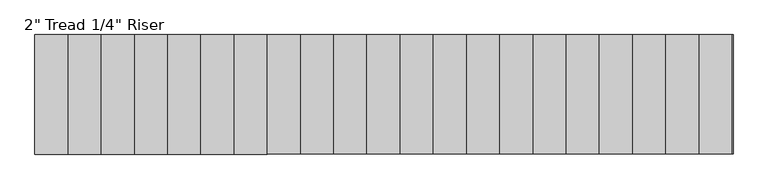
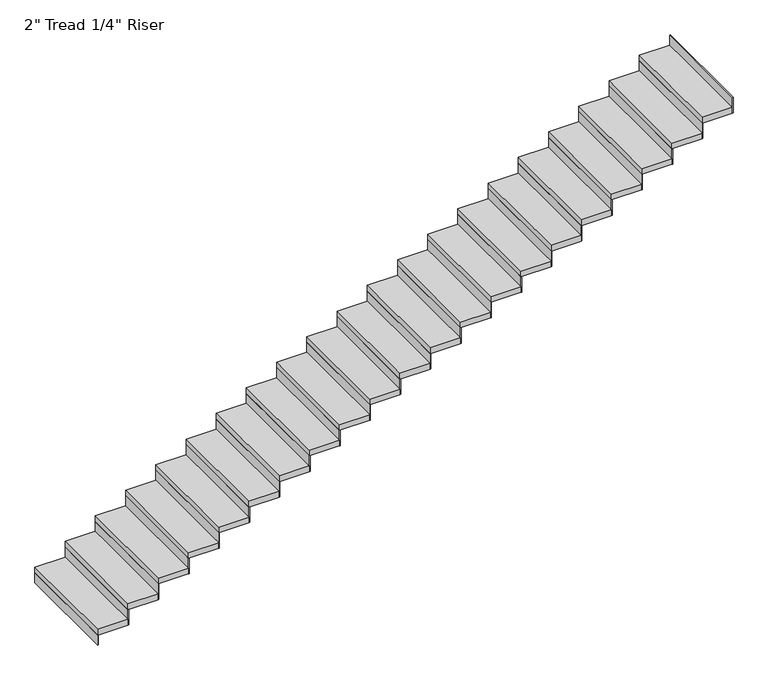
"""IFC4 building model written with IfcOpenShell, lengths in millimetres: stair flight geometry."""

from ifc_helpers import new_model, si_unit, frame, origin, origin_with_axes, place, context, project, spatial, polyline, outline, extrude, source, transform, mapped, element, save


def stair_flight_b878c745(model_context):
    return source(origin(), model_context, "Body", "SweptSolid", [
        extrude(outline(polyline([(10185.0667764, 52176.6739583), (10178.7167764, 52176.6739583), (10178.7167764, 53091.0739583), (10185.0667764, 53091.0739583), (10185.0667764, 52176.6739583)])), origin_with_axes(), (0.0, 0.0, 1.0), 87.7454545),
        extrude(outline(polyline([(10432.7167764, 53091.0739583), (10432.7167764, 52176.6739583), (10178.7167764, 52176.6739583), (10178.7167764, 53091.0739583), (10432.7167764, 53091.0739583)])), frame((0.0, 0.0, 87.7454545), z_axis=(0.0, 0.0, 1.0), x_axis=(1.0, 0.0, 0.0)), (0.0, 0.0, 1.0), 50.8),
        extrude(outline(polyline([(10439.0667764, 52176.6739583), (10432.7167764, 52176.6739583), (10432.7167764, 53091.0739583), (10439.0667764, 53091.0739583), (10439.0667764, 52176.6739583)])), frame((0.0, 0.0, 87.7454545), z_axis=(0.0, 0.0, 1.0), x_axis=(1.0, 0.0, 0.0)), (0.0, 0.0, 1.0), 138.5454545),
        extrude(outline(polyline([(10686.7167764, 53091.0739583), (10686.7167764, 52176.6739583), (10432.7167764, 52176.6739583), (10432.7167764, 53091.0739583), (10686.7167764, 53091.0739583)])), frame((0.0, 0.0, 226.2909091), z_axis=(0.0, 0.0, 1.0), x_axis=(1.0, 0.0, 0.0)), (0.0, 0.0, 1.0), 50.8),
        extrude(outline(polyline([(10693.0667764, 52176.6739583), (10686.7167764, 52176.6739583), (10686.7167764, 53091.0739583), (10693.0667764, 53091.0739583), (10693.0667764, 52176.6739583)])), frame((0.0, 0.0, 226.2909091), z_axis=(0.0, 0.0, 1.0), x_axis=(1.0, 0.0, 0.0)), (0.0, 0.0, 1.0), 138.5454545),
        extrude(outline(polyline([(10940.7167764, 53091.0739583), (10940.7167764, 52176.6739583), (10686.7167764, 52176.6739583), (10686.7167764, 53091.0739583), (10940.7167764, 53091.0739583)])), frame((0.0, 0.0, 364.8363636), z_axis=(0.0, 0.0, 1.0), x_axis=(1.0, 0.0, 0.0)), (0.0, 0.0, 1.0), 50.8),
        extrude(outline(polyline([(10947.0667764, 52176.6739583), (10940.7167764, 52176.6739583), (10940.7167764, 53091.0739583), (10947.0667764, 53091.0739583), (10947.0667764, 52176.6739583)])), frame((0.0, 0.0, 364.8363636), z_axis=(0.0, 0.0, 1.0), x_axis=(1.0, 0.0, 0.0)), (0.0, 0.0, 1.0), 138.5454545),
        extrude(outline(polyline([(11194.7167764, 53091.0739583), (11194.7167764, 52176.6739583), (10940.7167764, 52176.6739583), (10940.7167764, 53091.0739583), (11194.7167764, 53091.0739583)])), frame((0.0, 0.0, 503.3818182), z_axis=(0.0, 0.0, 1.0), x_axis=(1.0, 0.0, 0.0)), (0.0, 0.0, 1.0), 50.8),
        extrude(outline(polyline([(11201.0667764, 52176.6739583), (11194.7167764, 52176.6739583), (11194.7167764, 53091.0739583), (11201.0667764, 53091.0739583), (11201.0667764, 52176.6739583)])), frame((0.0, 0.0, 503.3818182), z_axis=(0.0, 0.0, 1.0), x_axis=(1.0, 0.0, 0.0)), (0.0, 0.0, 1.0), 138.5454545),
        extrude(outline(polyline([(11448.7167764, 53091.0739583), (11448.7167764, 52176.6739583), (11194.7167764, 52176.6739583), (11194.7167764, 53091.0739583), (11448.7167764, 53091.0739583)])), frame((0.0, 0.0, 641.9272727), z_axis=(0.0, 0.0, 1.0), x_axis=(1.0, 0.0, 0.0)), (0.0, 0.0, 1.0), 50.8),
        extrude(outline(polyline([(11455.0667764, 52176.6739583), (11448.7167764, 52176.6739583), (11448.7167764, 53091.0739583), (11455.0667764, 53091.0739583), (11455.0667764, 52176.6739583)])), frame((0.0, 0.0, 641.9272727), z_axis=(0.0, 0.0, 1.0), x_axis=(1.0, 0.0, 0.0)), (0.0, 0.0, 1.0), 138.5454545),
        extrude(outline(polyline([(11702.7167764, 53091.0739583), (11702.7167764, 52176.6739583), (11448.7167764, 52176.6739583), (11448.7167764, 53091.0739583), (11702.7167764, 53091.0739583)])), frame((0.0, 0.0, 780.4727273), z_axis=(0.0, 0.0, 1.0), x_axis=(1.0, 0.0, 0.0)), (0.0, 0.0, 1.0), 50.8),
        extrude(outline(polyline([(11709.0667764, 52176.6739583), (11702.7167764, 52176.6739583), (11702.7167764, 53091.0739583), (11709.0667764, 53091.0739583), (11709.0667764, 52176.6739583)])), frame((0.0, 0.0, 780.4727273), z_axis=(0.0, 0.0, 1.0), x_axis=(1.0, 0.0, 0.0)), (0.0, 0.0, 1.0), 138.5454545),
        extrude(outline(polyline([(11956.7167764, 53091.0739583), (11956.7167764, 52176.6739583), (11702.7167764, 52176.6739583), (11702.7167764, 53091.0739583), (11956.7167764, 53091.0739583)])), frame((0.0, 0.0, 919.0181818), z_axis=(0.0, 0.0, 1.0), x_axis=(1.0, 0.0, 0.0)), (0.0, 0.0, 1.0), 50.8),
        extrude(outline(polyline([(11963.0667764, 52176.6739583), (11956.7167764, 52176.6739583), (11956.7167764, 53091.0739583), (11963.0667764, 53091.0739583), (11963.0667764, 52176.6739583)])), frame((0.0, 0.0, 919.0181818), z_axis=(0.0, 0.0, 1.0), x_axis=(1.0, 0.0, 0.0)), (0.0, 0.0, 1.0), 138.5454545),
        extrude(outline(polyline([(12210.7167764, 53091.0739583), (12210.7167764, 52176.6739583), (11956.7167764, 52176.6739583), (11956.7167764, 53091.0739583), (12210.7167764, 53091.0739583)])), frame((0.0, 0.0, 1057.5636364), z_axis=(0.0, 0.0, 1.0), x_axis=(1.0, 0.0, 0.0)), (0.0, 0.0, 1.0), 50.8),
        extrude(outline(polyline([(12217.0667764, 52176.6739583), (12210.7167764, 52176.6739583), (12210.7167764, 53091.0739583), (12217.0667764, 53091.0739583), (12217.0667764, 52176.6739583)])), frame((0.0, 0.0, 1057.5636364), z_axis=(0.0, 0.0, 1.0), x_axis=(1.0, 0.0, 0.0)), (0.0, 0.0, 1.0), 138.5454545),
        extrude(outline(polyline([(12464.7167764, 53091.0739583), (12464.7167764, 52176.6739583), (12210.7167764, 52176.6739583), (12210.7167764, 53091.0739583), (12464.7167764, 53091.0739583)])), frame((0.0, 0.0, 1196.1090909), z_axis=(0.0, 0.0, 1.0), x_axis=(1.0, 0.0, 0.0)), (0.0, 0.0, 1.0), 50.8),
        extrude(outline(polyline([(12471.0667764, 52176.6739583), (12464.7167764, 52176.6739583), (12464.7167764, 53091.0739583), (12471.0667764, 53091.0739583), (12471.0667764, 52176.6739583)])), frame((0.0, 0.0, 1196.1090909), z_axis=(0.0, 0.0, 1.0), x_axis=(1.0, 0.0, 0.0)), (0.0, 0.0, 1.0), 138.5454545),
        extrude(outline(polyline([(12718.7167764, 53091.0739583), (12718.7167764, 52176.6739583), (12464.7167764, 52176.6739583), (12464.7167764, 53091.0739583), (12718.7167764, 53091.0739583)])), frame((0.0, 0.0, 1334.6545455), z_axis=(0.0, 0.0, 1.0), x_axis=(1.0, 0.0, 0.0)), (0.0, 0.0, 1.0), 50.8),
        extrude(outline(polyline([(12725.0667764, 52176.6739583), (12718.7167764, 52176.6739583), (12718.7167764, 53091.0739583), (12725.0667764, 53091.0739583), (12725.0667764, 52176.6739583)])), frame((0.0, 0.0, 1334.6545455), z_axis=(0.0, 0.0, 1.0), x_axis=(1.0, 0.0, 0.0)), (0.0, 0.0, 1.0), 138.5454545),
        extrude(outline(polyline([(12972.7167764, 53091.0739583), (12972.7167764, 52176.6739583), (12718.7167764, 52176.6739583), (12718.7167764, 53091.0739583), (12972.7167764, 53091.0739583)])), frame((0.0, 0.0, 1473.2), z_axis=(0.0, 0.0, 1.0), x_axis=(1.0, 0.0, 0.0)), (0.0, 0.0, 1.0), 50.8),
        extrude(outline(polyline([(12979.0667764, 52176.6739583), (12972.7167764, 52176.6739583), (12972.7167764, 53091.0739583), (12979.0667764, 53091.0739583), (12979.0667764, 52176.6739583)])), frame((0.0, 0.0, 1473.2), z_axis=(0.0, 0.0, 1.0), x_axis=(1.0, 0.0, 0.0)), (0.0, 0.0, 1.0), 138.5454545),
        extrude(outline(polyline([(13226.7167764, 53091.0739583), (13226.7167764, 52176.6739583), (12972.7167764, 52176.6739583), (12972.7167764, 53091.0739583), (13226.7167764, 53091.0739583)])), frame((0.0, 0.0, 1611.7454545), z_axis=(0.0, 0.0, 1.0), x_axis=(1.0, 0.0, 0.0)), (0.0, 0.0, 1.0), 50.8),
        extrude(outline(polyline([(13233.0667764, 52176.6739583), (13226.7167764, 52176.6739583), (13226.7167764, 53091.0739583), (13233.0667764, 53091.0739583), (13233.0667764, 52176.6739583)])), frame((0.0, 0.0, 1611.7454545), z_axis=(0.0, 0.0, 1.0), x_axis=(1.0, 0.0, 0.0)), (0.0, 0.0, 1.0), 138.5454545),
        extrude(outline(polyline([(13480.7167764, 53091.0739583), (13480.7167764, 52176.6739583), (13226.7167764, 52176.6739583), (13226.7167764, 53091.0739583), (13480.7167764, 53091.0739583)])), frame((0.0, 0.0, 1750.2909091), z_axis=(0.0, 0.0, 1.0), x_axis=(1.0, 0.0, 0.0)), (0.0, 0.0, 1.0), 50.8),
        extrude(outline(polyline([(13487.0667764, 52176.6739583), (13480.7167764, 52176.6739583), (13480.7167764, 53091.0739583), (13487.0667764, 53091.0739583), (13487.0667764, 52176.6739583)])), frame((0.0, 0.0, 1750.2909091), z_axis=(0.0, 0.0, 1.0), x_axis=(1.0, 0.0, 0.0)), (0.0, 0.0, 1.0), 138.5454545),
        extrude(outline(polyline([(13734.7167764, 53091.0739583), (13734.7167764, 52176.6739583), (13480.7167764, 52176.6739583), (13480.7167764, 53091.0739583), (13734.7167764, 53091.0739583)])), frame((0.0, 0.0, 1888.8363636), z_axis=(0.0, 0.0, 1.0), x_axis=(1.0, 0.0, 0.0)), (0.0, 0.0, 1.0), 50.8),
        extrude(outline(polyline([(13741.0667764, 52176.6739583), (13734.7167764, 52176.6739583), (13734.7167764, 53091.0739583), (13741.0667764, 53091.0739583), (13741.0667764, 52176.6739583)])), frame((0.0, 0.0, 1888.8363636), z_axis=(0.0, 0.0, 1.0), x_axis=(1.0, 0.0, 0.0)), (0.0, 0.0, 1.0), 138.5454545),
        extrude(outline(polyline([(13988.7167764, 53091.0739583), (13988.7167764, 52176.6739583), (13734.7167764, 52176.6739583), (13734.7167764, 53091.0739583), (13988.7167764, 53091.0739583)])), frame((0.0, 0.0, 2027.3818182), z_axis=(0.0, 0.0, 1.0), x_axis=(1.0, 0.0, 0.0)), (0.0, 0.0, 1.0), 50.8),
        extrude(outline(polyline([(13995.0667764, 52176.6739583), (13988.7167764, 52176.6739583), (13988.7167764, 53091.0739583), (13995.0667764, 53091.0739583), (13995.0667764, 52176.6739583)])), frame((0.0, 0.0, 2027.3818182), z_axis=(0.0, 0.0, 1.0), x_axis=(1.0, 0.0, 0.0)), (0.0, 0.0, 1.0), 138.5454545),
        extrude(outline(polyline([(14242.7167764, 53091.0739583), (14242.7167764, 52176.6739583), (13988.7167764, 52176.6739583), (13988.7167764, 53091.0739583), (14242.7167764, 53091.0739583)])), frame((0.0, 0.0, 2165.9272727), z_axis=(0.0, 0.0, 1.0), x_axis=(1.0, 0.0, 0.0)), (0.0, 0.0, 1.0), 50.8),
        extrude(outline(polyline([(14249.0667764, 52176.6739583), (14242.7167764, 52176.6739583), (14242.7167764, 53091.0739583), (14249.0667764, 53091.0739583), (14249.0667764, 52176.6739583)])), frame((0.0, 0.0, 2165.9272727), z_axis=(0.0, 0.0, 1.0), x_axis=(1.0, 0.0, 0.0)), (0.0, 0.0, 1.0), 138.5454545),
        extrude(outline(polyline([(14496.7167764, 53091.0739583), (14496.7167764, 52176.6739583), (14242.7167764, 52176.6739583), (14242.7167764, 53091.0739583), (14496.7167764, 53091.0739583)])), frame((0.0, 0.0, 2304.4727273), z_axis=(0.0, 0.0, 1.0), x_axis=(1.0, 0.0, 0.0)), (0.0, 0.0, 1.0), 50.8),
        extrude(outline(polyline([(14503.0667764, 52176.6739583), (14496.7167764, 52176.6739583), (14496.7167764, 53091.0739583), (14503.0667764, 53091.0739583), (14503.0667764, 52176.6739583)])), frame((0.0, 0.0, 2304.4727273), z_axis=(0.0, 0.0, 1.0), x_axis=(1.0, 0.0, 0.0)), (0.0, 0.0, 1.0), 138.5454545),
        extrude(outline(polyline([(14750.7167764, 53091.0739583), (14750.7167764, 52176.6739583), (14496.7167764, 52176.6739583), (14496.7167764, 53091.0739583), (14750.7167764, 53091.0739583)])), frame((0.0, 0.0, 2443.0181818), z_axis=(0.0, 0.0, 1.0), x_axis=(1.0, 0.0, 0.0)), (0.0, 0.0, 1.0), 50.8),
        extrude(outline(polyline([(14757.0667764, 52176.6739583), (14750.7167764, 52176.6739583), (14750.7167764, 53091.0739583), (14757.0667764, 53091.0739583), (14757.0667764, 52176.6739583)])), frame((0.0, 0.0, 2443.0181818), z_axis=(0.0, 0.0, 1.0), x_axis=(1.0, 0.0, 0.0)), (0.0, 0.0, 1.0), 138.5454545),
        extrude(outline(polyline([(15004.7167764, 53091.0739583), (15004.7167764, 52176.6739583), (14750.7167764, 52176.6739583), (14750.7167764, 53091.0739583), (15004.7167764, 53091.0739583)])), frame((0.0, 0.0, 2581.5636364), z_axis=(0.0, 0.0, 1.0), x_axis=(1.0, 0.0, 0.0)), (0.0, 0.0, 1.0), 50.8),
        extrude(outline(polyline([(15011.0667764, 52176.6739583), (15004.7167764, 52176.6739583), (15004.7167764, 53091.0739583), (15011.0667764, 53091.0739583), (15011.0667764, 52176.6739583)])), frame((0.0, 0.0, 2581.5636364), z_axis=(0.0, 0.0, 1.0), x_axis=(1.0, 0.0, 0.0)), (0.0, 0.0, 1.0), 138.5454545),
        extrude(outline(polyline([(15258.7167764, 53091.0739583), (15258.7167764, 52176.6739583), (15004.7167764, 52176.6739583), (15004.7167764, 53091.0739583), (15258.7167764, 53091.0739583)])), frame((0.0, 0.0, 2720.1090909), z_axis=(0.0, 0.0, 1.0), x_axis=(1.0, 0.0, 0.0)), (0.0, 0.0, 1.0), 50.8),
        extrude(outline(polyline([(15265.0667764, 52176.6739583), (15258.7167764, 52176.6739583), (15258.7167764, 53091.0739583), (15265.0667764, 53091.0739583), (15265.0667764, 52176.6739583)])), frame((0.0, 0.0, 2720.1090909), z_axis=(0.0, 0.0, 1.0), x_axis=(1.0, 0.0, 0.0)), (0.0, 0.0, 1.0), 138.5454545),
        extrude(outline(polyline([(15519.0667764, 52176.6739583), (15512.7167764, 52176.6739583), (15512.7167764, 53091.0739583), (15519.0667764, 53091.0739583), (15519.0667764, 52176.6739583)])), frame((0.0, 0.0, 2858.6545455), z_axis=(0.0, 0.0, 1.0), x_axis=(1.0, 0.0, 0.0)), (0.0, 0.0, 1.0), 138.5454545),
        extrude(outline(polyline([(15512.7167764, 53091.0739583), (15512.7167764, 52176.6739583), (15258.7167764, 52176.6739583), (15258.7167764, 53091.0739583), (15512.7167764, 53091.0739583)])), frame((0.0, 0.0, 2858.6545455), z_axis=(0.0, 0.0, 1.0), x_axis=(1.0, 0.0, 0.0)), (0.0, 0.0, 1.0), 50.8),
    ])


if __name__ == "__main__":
    model = new_model("IFC4")
    model_context = context("Model", 3, world=origin())
    ifc_project = project(units=[si_unit("LENGTHUNIT", "METRE", prefix="MILLI")], contexts=[model_context])
    site = spatial("IfcSite", under=ifc_project)
    building = spatial("IfcBuilding", under=site)
    placement = place(None, origin())
    stair_flight_shape = stair_flight_b878c745(model_context)
    element("IfcStairFlight", 1, ObjectType="2\" Tread 1/4\" Riser", at=placement, inside=building, context=model_context, shape_type="MappedRepresentation", body=[
        mapped(stair_flight_shape, transform((0.0, 0.0, 0.0), x_axis=(1.0, 0.0, 0.0), y_axis=(0.0, 1.0, 0.0), z_axis=(0.0, 0.0, 1.0))),
    ])
    save(model, "model.ifc")
